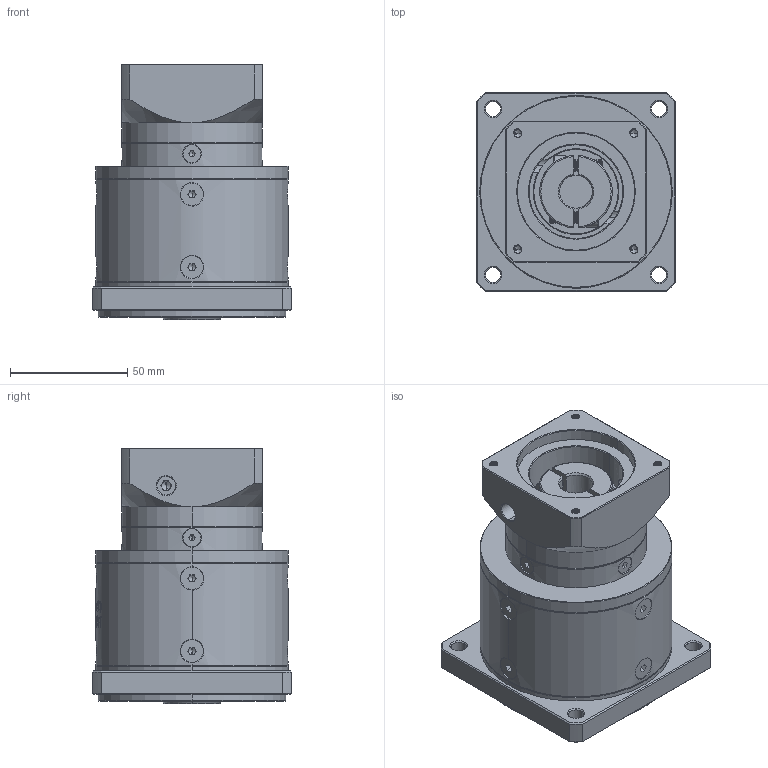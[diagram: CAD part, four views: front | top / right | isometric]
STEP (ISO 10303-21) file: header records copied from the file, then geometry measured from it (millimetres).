
FILE_DESCRIPTION (( 'STEP AP214' ), '1' );
FILE_NAME ('ZF080-K15-L2-P2-14-50-70-M4.step', '2023-08-19T06:58:53', ( '' ), ( '' ), 'SwSTEP 2.0', 'SolidWorks 2016', '' );
FILE_SCHEMA (( 'AUTOMOTIVE_DESIGN' ));
Length unit declared in the file: millimetre
Products named in the file (1): ZF080-K15-L2-P2-14-50-70-M4
Bounding box: 85 x 85 x 109 mm (x, y, z)
Volume: 451779.3 mm3; surface area: 66311.2 mm2
Topology: 18 solids, 18 shells, 2238 faces, 5907 edges, 3769 vertices
Faces by surface type: plane 1118, bspline 390, cylinder 369, cone 321, torus 40
Entity records: 114992 total; most frequent: CARTESIAN_POINT 39787, ORIENTED_EDGE 11742, DIRECTION 8819, EDGE_CURVE 5871, VERTEX_POINT 3769, VECTOR 3117, LINE 3117, AXIS2_PLACEMENT_3D 2851
